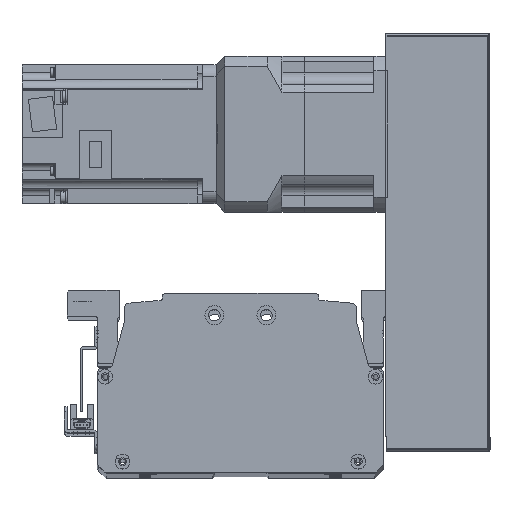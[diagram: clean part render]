
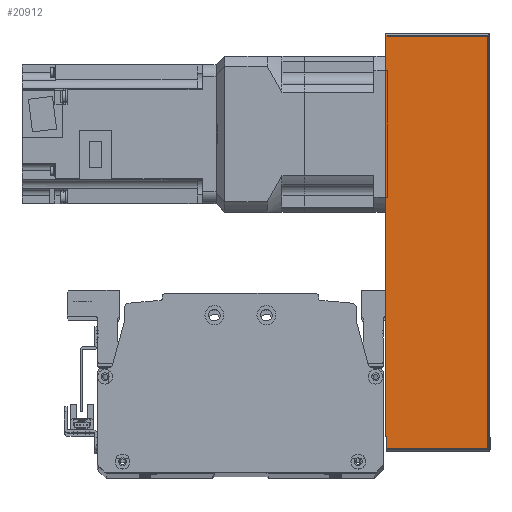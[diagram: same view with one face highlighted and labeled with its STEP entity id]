
A CAD part, top view. The second image highlights one B-rep face of the part: STEP entity #20912.
In plain terms, the highlighted planar face has unit normal (0, 0, 1) as drawn and (0, -1, 0) by its records, which use the part's own axes.
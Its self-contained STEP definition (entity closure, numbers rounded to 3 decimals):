
#568=PLANE('',#22804);
#1686=LINE('',#33241,#3346);
#1712=LINE('',#33337,#3372);
#1713=LINE('',#33345,#3373);
#1720=LINE('',#33370,#3380);
#3346=VECTOR('',#27047,10.);
#3372=VECTOR('',#27165,10.);
#3373=VECTOR('',#27176,10.);
#3380=VECTOR('',#27211,10.);
#5405=FACE_OUTER_BOUND('',#6873,.T.);
#6873=EDGE_LOOP('',(#16434,#16435,#16436,#16437));
#9763=VERTEX_POINT('',#33238);
#9764=VERTEX_POINT('',#33240);
#9788=VERTEX_POINT('',#33333);
#9789=VERTEX_POINT('',#33339);
#12134=EDGE_CURVE('',#9764,#9763,#1686,.T.);
#12184=EDGE_CURVE('',#9763,#9788,#1712,.T.);
#12188=EDGE_CURVE('',#9789,#9764,#1713,.T.);
#12201=EDGE_CURVE('',#9788,#9789,#1720,.T.);
#16434=ORIENTED_EDGE('',*,*,#12184,.T.);
#16435=ORIENTED_EDGE('',*,*,#12201,.T.);
#16436=ORIENTED_EDGE('',*,*,#12188,.T.);
#16437=ORIENTED_EDGE('',*,*,#12134,.T.);
#20912=ADVANCED_FACE('',(#5405),#568,.F.);
#22804=AXIS2_PLACEMENT_3D('',#33376,#27221,#27222);
#27047=DIRECTION('',(1.,0.,0.));
#27165=DIRECTION('',(0.,0.,1.));
#27176=DIRECTION('',(0.,0.,-1.));
#27211=DIRECTION('',(-1.,0.,0.));
#27221=DIRECTION('center_axis',(0.,1.,0.));
#27222=DIRECTION('ref_axis',(1.,0.,0.));
#33238=CARTESIAN_POINT('',(119.5,-51.,-30.));
#33240=CARTESIAN_POINT('',(-119.5,-51.,-30.));
#33241=CARTESIAN_POINT('',(120.5,-51.,-30.));
#33333=CARTESIAN_POINT('',(119.5,-51.,29.));
#33337=CARTESIAN_POINT('',(119.5,-51.,0.));
#33339=CARTESIAN_POINT('',(-119.5,-51.,29.));
#33345=CARTESIAN_POINT('',(-119.5,-51.,0.));
#33370=CARTESIAN_POINT('',(-60.25,-51.,29.));
#33376=CARTESIAN_POINT('Origin',(-120.5,-51.,0.));
